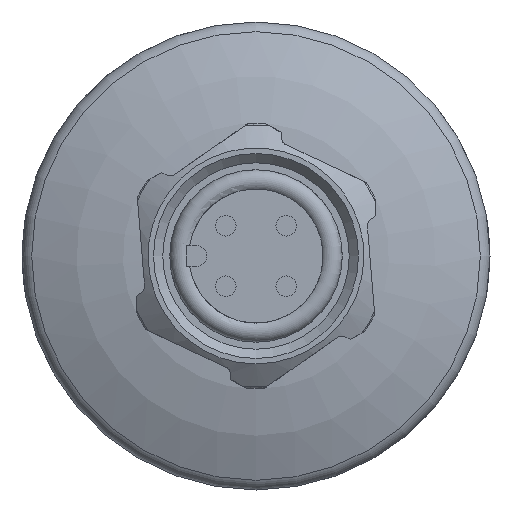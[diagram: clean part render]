
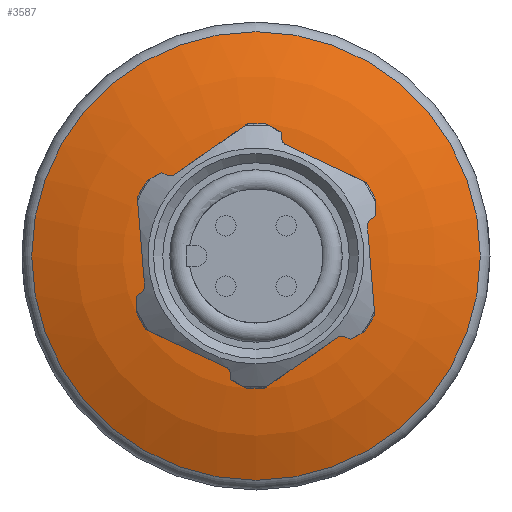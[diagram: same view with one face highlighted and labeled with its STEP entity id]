
A CAD part, front view. The second image highlights one B-rep face of the part: STEP entity #3587.
In plain terms, the highlighted toroidal (fillet/blend) face has major radius 4.5 mm and minor radius 20 mm.
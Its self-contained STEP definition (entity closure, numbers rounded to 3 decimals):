
#21=DEGENERATE_TOROIDAL_SURFACE('',#3831,4.5,20.,
 .T.);
#780=ORIENTED_EDGE('',*,*,#1471,.T.);
#781=ORIENTED_EDGE('',*,*,#1472,.F.);
#1471=EDGE_CURVE('',#1804,#1804,#1948,.T.);
#1472=EDGE_CURVE('',#1805,#1805,#1949,.T.);
#1804=VERTEX_POINT('',#5557);
#1805=VERTEX_POINT('',#5560);
#1948=CIRCLE('',#3830,13.132);
#1949=CIRCLE('',#3832,5.);
#2070=EDGE_LOOP('',(#780));
#2071=EDGE_LOOP('',(#781));
#2266=FACE_BOUND('',#2070,.T.);
#2267=FACE_BOUND('',#2071,.T.);
#3587=ADVANCED_FACE('',(#2266,#2267),#21,.T.);
#3830=AXIS2_PLACEMENT_3D('',#5556,#4281,#4282);
#3831=AXIS2_PLACEMENT_3D('',#5558,#4283,#4284);
#3832=AXIS2_PLACEMENT_3D('',#5559,#4285,#4286);
#4281=DIRECTION('',(0.,-1.,0.));
#4282=DIRECTION('',(0.,0.,-1.));
#4283=DIRECTION('',(0.,-1.,0.));
#4284=DIRECTION('',(0.,0.,-1.));
#4285=DIRECTION('',(0.,-1.,0.));
#4286=DIRECTION('',(0.,0.,-1.));
#5556=CARTESIAN_POINT('',(0.,15.808,0.));
#5557=CARTESIAN_POINT('',(0.,15.808,-13.132));
#5558=CARTESIAN_POINT('',(0.,33.85,0.));
#5559=CARTESIAN_POINT('',(0.,13.856,0.));
#5560=CARTESIAN_POINT('',(0.,13.856,-5.));
